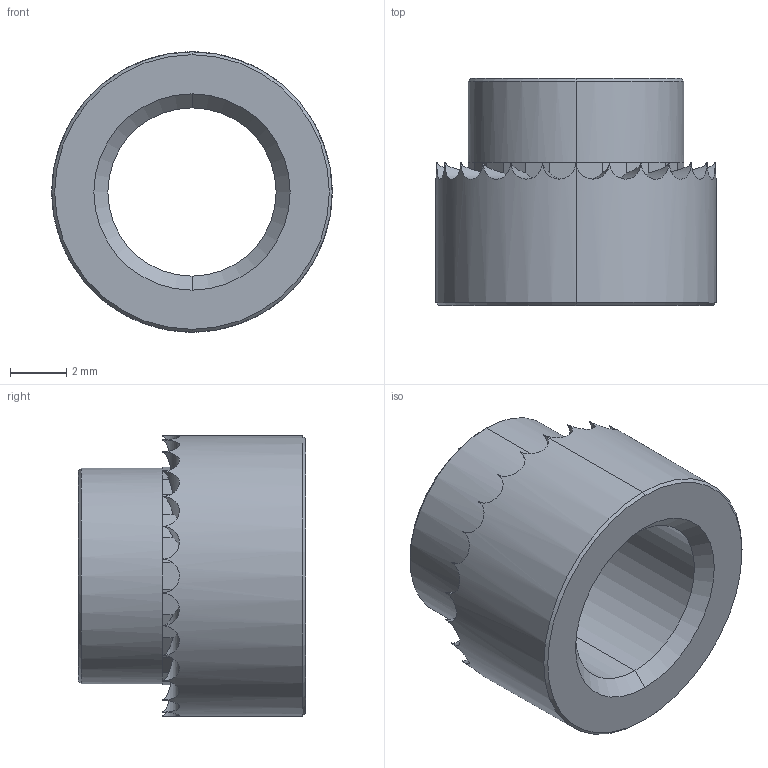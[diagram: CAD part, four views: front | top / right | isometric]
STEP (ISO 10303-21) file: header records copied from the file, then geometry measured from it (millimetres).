
FILE_DESCRIPTION (( 'STEP AP203' ), '1' );
FILE_NAME ('P0829.060-12G-ZP.step', '2019-03-21T22:19:28', ( '' ), ( '' ), 'SwSTEP 2.0', 'SolidWorks 2017', '' );
FILE_SCHEMA (( 'CONFIG_CONTROL_DESIGN' ));
Length unit declared in the file: millimetre
Products named in the file (1): P0829.060-12G-ZP
Bounding box: 10 x 8.1 x 10 mm (x, y, z)
Volume: 290 mm3; surface area: 479 mm2
Topology: 1 solids, 1 shells, 120 faces, 294 edges, 176 vertices
Faces by surface type: plane 80, cylinder 32, cone 8
Entity records: 3739 total; most frequent: CARTESIAN_POINT 903, ORIENTED_EDGE 588, DIRECTION 582, EDGE_CURVE 294, AXIS2_PLACEMENT_3D 219, VERTEX_POINT 176, LINE 144, VECTOR 144
